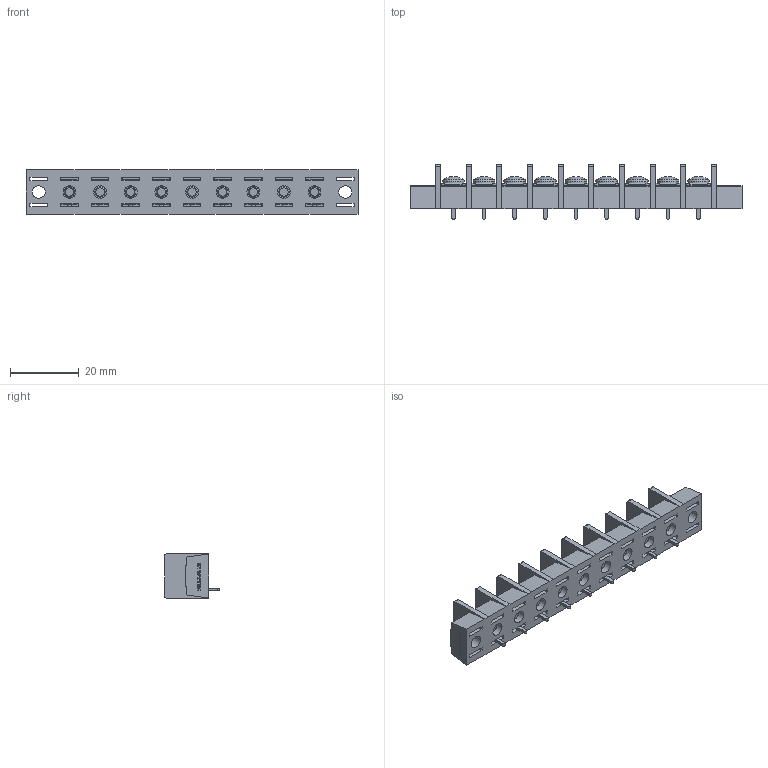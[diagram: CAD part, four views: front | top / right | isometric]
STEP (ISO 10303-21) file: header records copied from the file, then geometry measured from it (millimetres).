
FILE_DESCRIPTION(/* description */ ('Alibre Inc.'),/* implementation_level */ '2;1');
FILE_NAME(/* name */ 'export0',/* time_stamp */ '2015-10-20T19:53:49+09:00',/* author */ (''),/* organization */ (''),/* preprocessor_version */ 'ST-DEVELOPER v14',/* originating_system */ 'Alibre',/* authorisation */ '');
FILE_SCHEMA (('CONFIG_CONTROL_DESIGN'));
Length unit declared in the file: centimetre
Products named in the file (1): ID_1
Bounding box: 96.3 x 15.8 x 12.8 mm (x, y, z)
Volume: 8416 mm3; surface area: 10382.6 mm2
Topology: 1 solids, 154 shells, 2941 faces, 7555 edges, 5000 vertices
Faces by surface type: plane 2201, bspline 572, cylinder 96, cone 45, torus 18, sphere 9
Full cylindrical faces by diameter (mm): 3 x18, 3.7 x11, 4.6 x11, 6.3 x9
Entity records: 85054 total; most frequent: CARTESIAN_POINT 20546, ORIENTED_EDGE 14900, DIRECTION 8928, EDGE_CURVE 7450, VECTOR 5743, LINE 5743, VERTEX_POINT 4971, EDGE_LOOP 3233
